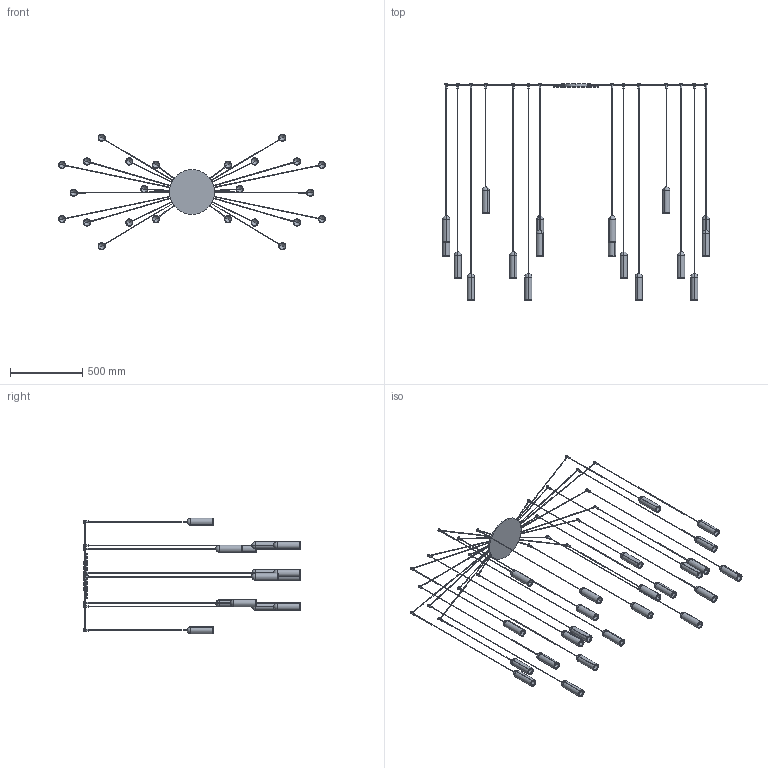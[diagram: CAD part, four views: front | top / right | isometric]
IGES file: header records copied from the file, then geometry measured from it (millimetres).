
Start section: SolidWorks IGES file using analytic representation for surfaces
Global section: file name: Y:\eforma\TECNICO\SOLIDWORKS\E-FORMA\09-LAMPADE\NANUM\08 modelli 3D web\NANB3-00-NANUM 24 B ROSONE CENTRALE.IGS; native system: SolidWorks 2022; preprocessor: SolidWorks 2022; author: eforma.tech; date: 240801.144422; units: millimetre
Bounding box: 1849.98 x 1500 x 800.99 mm (x, y, z)
Volume: 3495357.3 mm3; surface area: 2147942.7 mm2
Topology: 73 solids, 73 shells, 931 faces, 1816 edges, 1032 vertices
Faces by surface type: revolution 758, plane 173
